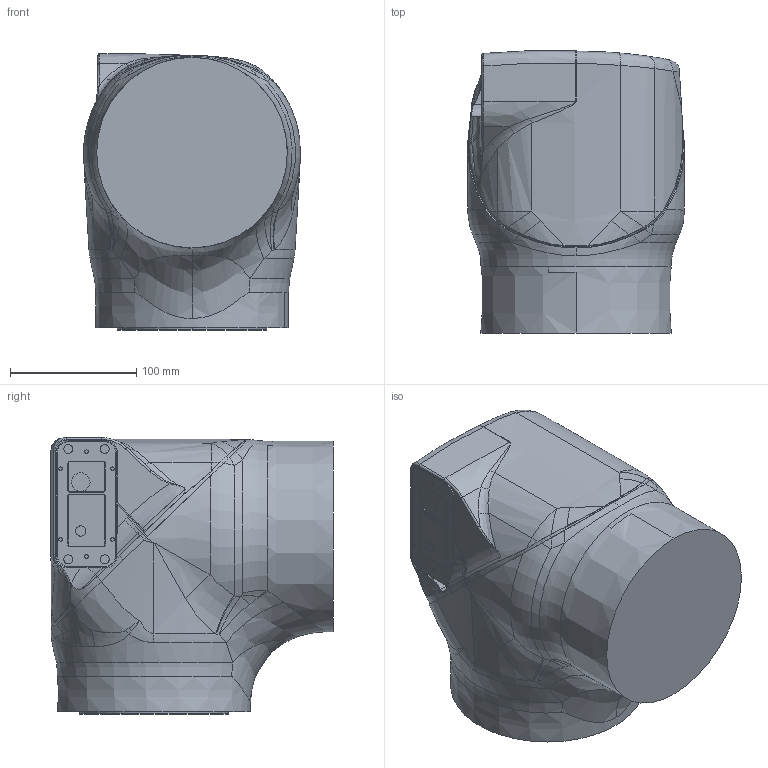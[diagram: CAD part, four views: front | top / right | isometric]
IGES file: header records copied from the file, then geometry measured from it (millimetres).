
Start section:  PTC IGES file: saxis_view_yr-n1-06vxc12-a00_.igs
Global section: file name: saxis_view_yr-n1-06vxc12-a00_.igs; native system: Creo Parametric by PTC Inc.; preprocessor: 2021072; author: yoizumi; organization: Unknown; date: 20250214.090446; units: millimetre
Bounding box: 171.99 x 223.76 x 219.5 mm (x, y, z)
Volume: 5959292.9 mm3; surface area: 198934.5 mm2
Topology: 2 solids, 2 shells, 392 faces, 935 edges, 565 vertices
Faces by surface type: bspline 268, revolution 122, extrusion 2
